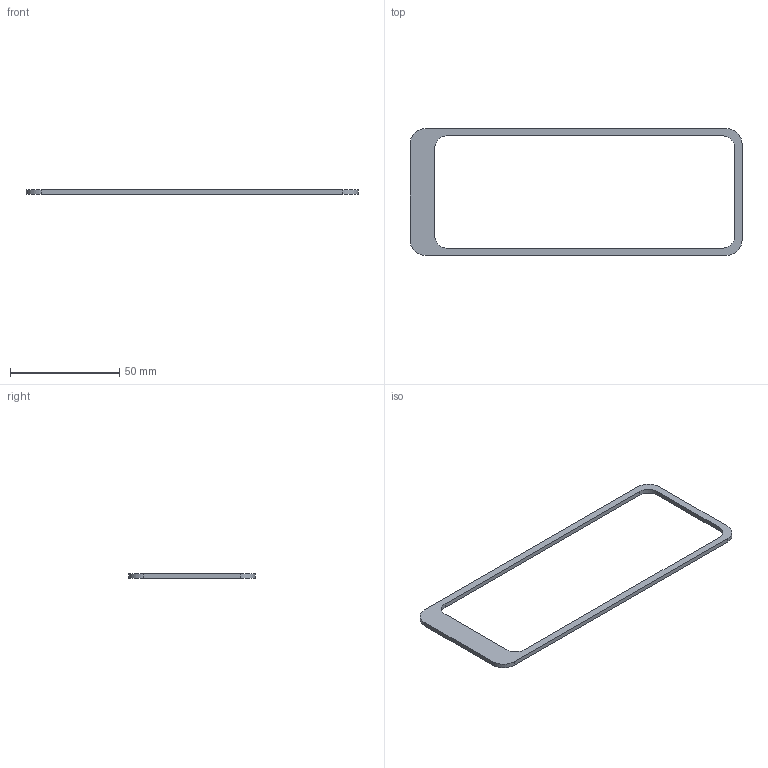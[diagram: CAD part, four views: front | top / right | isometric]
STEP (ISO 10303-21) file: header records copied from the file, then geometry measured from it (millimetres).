
FILE_DESCRIPTION(('Open CASCADE Model'),'2;1');
FILE_NAME('Open CASCADE Shape Model','2026-10-13T16:26:44',('Author'),( 'Open CASCADE'),'Open CASCADE STEP processor 7.9','Open CASCADE 7.9' ,'Unknown');
FILE_SCHEMA(('AUTOMOTIVE_DESIGN { 1 0 10303 214 1 1 1 1 }'));
Length unit declared in the file: millimetre
Products named in the file (1): Open CASCADE STEP translator 7.9 1
Bounding box: 152 x 58 x 2 mm (x, y, z)
Volume: 3478.9 mm3; surface area: 5030.5 mm2
Topology: 1 solids, 1 shells, 18 faces, 48 edges, 32 vertices
Faces by surface type: plane 10, cylinder 8
Entity records: 1214 total; most frequent: CARTESIAN_POINT 259, DIRECTION 174, ORIENTED_EDGE 96, LINE 96, VECTOR 96, PCURVE 96, DEFINITIONAL_REPRESENTATION 96, EDGE_CURVE 48
